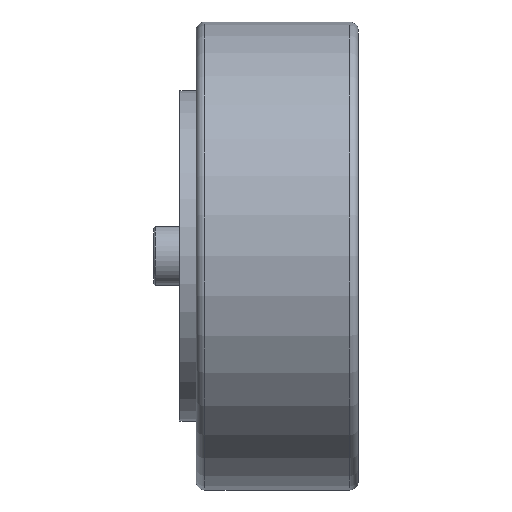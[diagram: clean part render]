
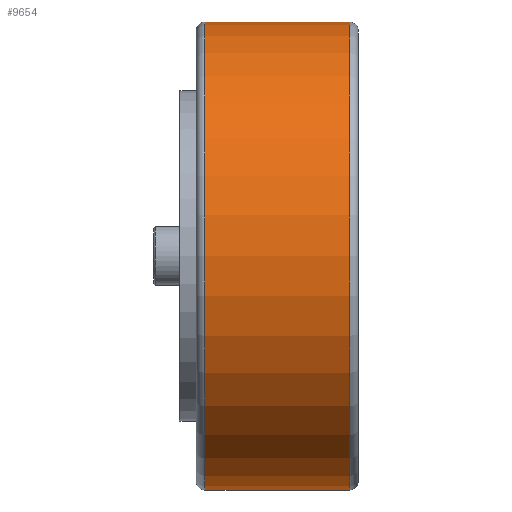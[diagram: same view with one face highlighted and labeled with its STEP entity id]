
A CAD part, top view. The second image highlights one B-rep face of the part: STEP entity #9654.
In plain terms, the highlighted cylindrical face has radius 80 mm (diameter 160 mm), a partial arc.
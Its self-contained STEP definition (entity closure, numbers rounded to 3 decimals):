
#9382=CARTESIAN_POINT('',(-52.5,0.,0.));
#9383=DIRECTION('',(1.,0.,0.));
#9384=DIRECTION('',(0.,1.,0.));
#9385=AXIS2_PLACEMENT_3D('',#9382,#9383,#9384);
#9398=DIRECTION('',(-1.,0.,0.));
#9399=VECTOR('',#9398,49.5);
#9400=CARTESIAN_POINT('',(-3.,80.,0.));
#9401=LINE('',#9400,#9399);
#9405=CARTESIAN_POINT('',(-3.,0.,0.));
#9406=DIRECTION('',(1.,0.,0.));
#9407=DIRECTION('',(0.,1.,0.));
#9408=AXIS2_PLACEMENT_3D('',#9405,#9406,#9407);
#9413=DIRECTION('',(-1.,0.,0.));
#9414=VECTOR('',#9413,49.5);
#9415=CARTESIAN_POINT('',(-3.,-80.,0.));
#9416=LINE('',#9415,#9414);
#9506=CARTESIAN_POINT('',(-3.,80.,0.));
#9507=CARTESIAN_POINT('',(-52.5,80.,0.));
#9508=VERTEX_POINT('',#9506);
#9509=VERTEX_POINT('',#9507);
#9514=CARTESIAN_POINT('',(-3.,-80.,0.));
#9515=CARTESIAN_POINT('',(-52.5,-80.,0.));
#9516=VERTEX_POINT('',#9514);
#9517=VERTEX_POINT('',#9515);
#9640=CARTESIAN_POINT('',(2.775,0.,0.));
#9641=DIRECTION('',(-1.,0.,0.));
#9642=DIRECTION('',(0.,1.,0.));
#9643=AXIS2_PLACEMENT_3D('',#9640,#9641,#9642);
#9644=CYLINDRICAL_SURFACE('',#9643,80.);
#9646=ORIENTED_EDGE('',*,*,#9645,.F.);
#9648=ORIENTED_EDGE('',*,*,#9647,.T.);
#9650=ORIENTED_EDGE('',*,*,#9649,.T.);
#9651=ORIENTED_EDGE('',*,*,#9633,.F.);
#9652=EDGE_LOOP('',(#9646,#9648,#9650,#9651));
#9653=FACE_OUTER_BOUND('',#9652,.F.);
#9386=CIRCLE('',#9385,80.);
#9409=CIRCLE('',#9408,80.);
#9633=EDGE_CURVE('',#9509,#9517,#9386,.T.);
#9645=EDGE_CURVE('',#9508,#9509,#9401,.T.);
#9647=EDGE_CURVE('',#9508,#9516,#9409,.T.);
#9649=EDGE_CURVE('',#9516,#9517,#9416,.T.);
#9654=ADVANCED_FACE('',(#9653),#9644,.T.);
